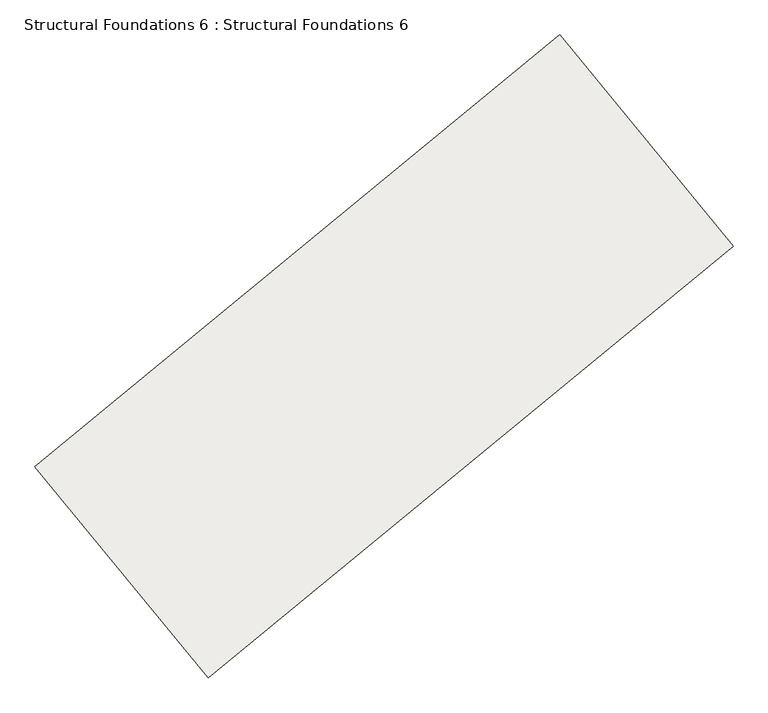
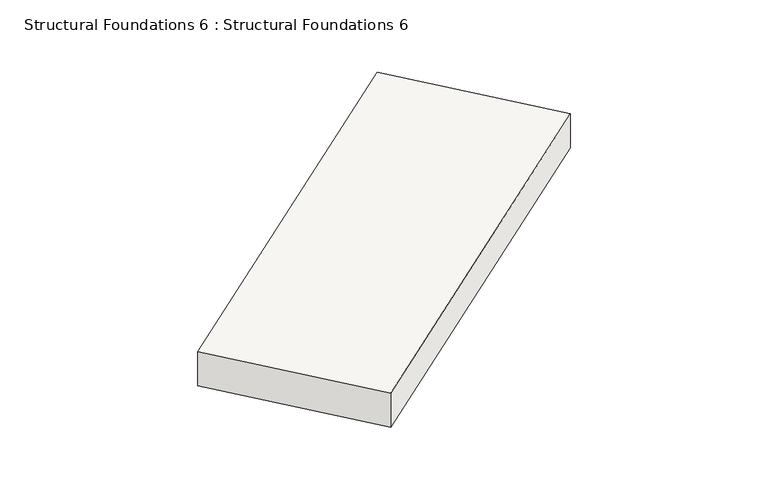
"""IFC4 building model written with IfcOpenShell, lengths in millimetres: slab geometry, Structural Foundations 6 : Structural Foundations 6."""

from ifc_helpers import new_model, si_unit, origin, place, context, project, spatial, faceted_brep, source, transform, mapped, element, save


def structural_foundations_6_structural_foundations_6_ebc3ae88(model_context):
    return source(origin(), model_context, "Body", "Brep", [
        faceted_brep([(-324366.2361429, -474436.8178583, 634440.0), (-326588.7427976, -471733.0539721, 634440.0), (-326588.7427976, -471733.0539721, 633740.0), (-324366.2361429, -474436.8178583, 633740.0), (-317647.7778792, -468909.4052014, 634530.0), (-317647.7778792, -468909.4052014, 633830.0), (-319870.2956709, -466205.6277666, 633830.0), (-319870.2956709, -466205.6277666, 634530.0)], [[[0, 1, 2, 3]], [[4, 5, 6, 7]], [[4, 7, 1, 0]], [[7, 6, 2, 1]], [[6, 5, 3, 2]], [[5, 4, 0, 3]]]),
    ])


if __name__ == "__main__":
    model = new_model("IFC4")
    model_context = context("Model", 3, world=origin())
    ifc_project = project(units=[si_unit("LENGTHUNIT", "METRE", prefix="MILLI")], contexts=[model_context])
    site = spatial("IfcSite", under=ifc_project)
    building = spatial("IfcBuilding", under=site)
    placement = place(None, origin())
    structural_foundations_6_structural_foundations_6_shape = structural_foundations_6_structural_foundations_6_ebc3ae88(model_context)
    element("IfcSlab", 1, ObjectType="Structural Foundations 6 : Structural Foundations 6", at=placement, inside=building, context=model_context, shape_type="MappedRepresentation", body=[
        mapped(structural_foundations_6_structural_foundations_6_shape, transform((0.0, 0.0, 0.0), x_axis=(1.0, 0.0, 0.0), y_axis=(0.0, 1.0, 0.0), z_axis=(0.0, 0.0, 1.0))),
    ])
    save(model, "model.ifc")
